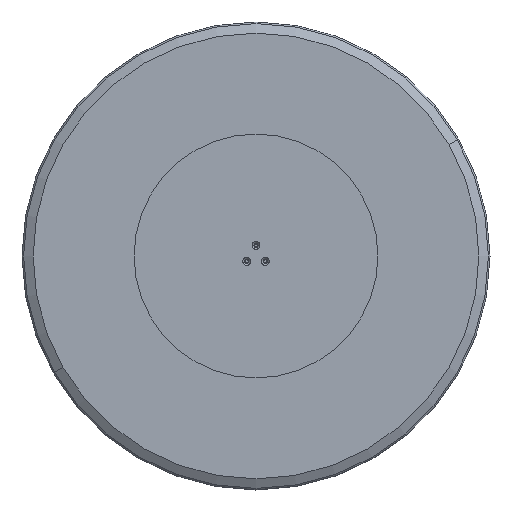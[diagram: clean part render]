
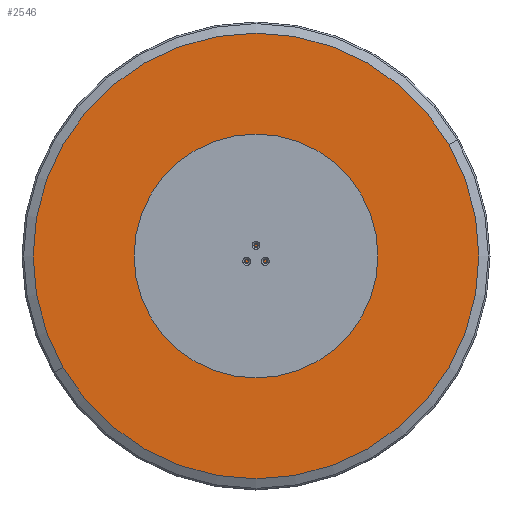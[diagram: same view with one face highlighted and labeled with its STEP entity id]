
A CAD part, front view. The second image highlights one B-rep face of the part: STEP entity #2546.
In plain terms, the highlighted planar face has unit normal (0, -1, 0).
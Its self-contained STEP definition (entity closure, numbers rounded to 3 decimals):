
#2 = CARTESIAN_POINT ( 'NONE',  ( 95., 0., -54.848 ) ) ;
#150 = PLANE ( 'NONE',  #3256 ) ;
#170 = ORIENTED_EDGE ( 'NONE', *, *, #2678, .T. ) ;
#176 = DIRECTION ( 'NONE',  ( 0., 1., 0. ) ) ;
#193 = DIRECTION ( 'NONE',  ( 0., 1., 0. ) ) ;
#209 = CARTESIAN_POINT ( 'NONE',  ( 0., 0., 0. ) ) ;
#230 = ORIENTED_EDGE ( 'NONE', *, *, #1282, .T. ) ;
#240 = EDGE_CURVE ( 'NONE', #2521, #2971, #834, .T. ) ;
#336 = ORIENTED_EDGE ( 'NONE', *, *, #2372, .T. ) ;
#361 = CIRCLE ( 'NONE', #2788, 3.4 ) ;
#402 = ORIENTED_EDGE ( 'NONE', *, *, #1863, .T. ) ;
#473 = FACE_BOUND ( 'NONE', #2837, .T. ) ;
#542 = CARTESIAN_POINT ( 'NONE',  ( 0., 0., 484.323 ) ) ;
#550 = DIRECTION ( 'NONE',  ( 0., 1., 0. ) ) ;
#552 = AXIS2_PLACEMENT_3D ( 'NONE', #2974, #550, #3547 ) ;
#599 = AXIS2_PLACEMENT_3D ( 'NONE', #209, #193, #1421 ) ;
#649 = CARTESIAN_POINT ( 'NONE',  ( 0., 0., -484.323 ) ) ;
#703 = AXIS2_PLACEMENT_3D ( 'NONE', #3090, #1289, #710 ) ;
#710 = DIRECTION ( 'NONE',  ( 0., 0., 1. ) ) ;
#724 = VERTEX_POINT ( 'NONE', #2861 ) ;
#757 = FACE_BOUND ( 'NONE', #2862, .T. ) ;
#792 = ORIENTED_EDGE ( 'NONE', *, *, #1921, .T. ) ;
#834 = CIRCLE ( 'NONE', #3069, 3.4 ) ;
#865 = EDGE_CURVE ( 'NONE', #1118, #3574, #3077, .T. ) ;
#1003 = CIRCLE ( 'NONE', #552, 3.4 ) ;
#1004 = AXIS2_PLACEMENT_3D ( 'NONE', #2957, #3880, #1770 ) ;
#1059 = FACE_OUTER_BOUND ( 'NONE', #1447, .T. ) ;
#1101 = CARTESIAN_POINT ( 'NONE',  ( 0., 0., 106.297 ) ) ;
#1118 = VERTEX_POINT ( 'NONE', #542 ) ;
#1146 = CARTESIAN_POINT ( 'NONE',  ( 95., 0., -51.448 ) ) ;
#1258 = CIRCLE ( 'NONE', #3940, 3.4 ) ;
#1282 = EDGE_CURVE ( 'NONE', #1872, #724, #2410, .T. ) ;
#1289 = DIRECTION ( 'NONE',  ( 0., 1., 0. ) ) ;
#1421 = DIRECTION ( 'NONE',  ( 0., 0., 1. ) ) ;
#1447 = EDGE_LOOP ( 'NONE', ( #1892, #2505 ) ) ;
#1638 = FACE_BOUND ( 'NONE', #2631, .T. ) ;
#1701 = DIRECTION ( 'NONE',  ( 0., 0., -1. ) ) ;
#1740 = DIRECTION ( 'NONE',  ( 0., 0., 1. ) ) ;
#1765 = DIRECTION ( 'NONE',  ( 0., 1., 0. ) ) ;
#1770 = DIRECTION ( 'NONE',  ( 0., 0., 1. ) ) ;
#1863 = EDGE_CURVE ( 'NONE', #2971, #2521, #1003, .T. ) ;
#1869 = CARTESIAN_POINT ( 'NONE',  ( 0., 0., 113.097 ) ) ;
#1872 = VERTEX_POINT ( 'NONE', #3266 ) ;
#1892 = ORIENTED_EDGE ( 'NONE', *, *, #865, .F. ) ;
#1921 = EDGE_CURVE ( 'NONE', #3220, #3011, #361, .T. ) ;
#1946 = CARTESIAN_POINT ( 'NONE',  ( 0., 0., 0. ) ) ;
#2042 = CARTESIAN_POINT ( 'NONE',  ( 95., 0., -54.848 ) ) ;
#2222 = CIRCLE ( 'NONE', #1004, 3.4 ) ;
#2372 = EDGE_CURVE ( 'NONE', #3011, #3220, #1258, .T. ) ;
#2410 = CIRCLE ( 'NONE', #703, 3.4 ) ;
#2467 = DIRECTION ( 'NONE',  ( 0., 0., 1. ) ) ;
#2505 = ORIENTED_EDGE ( 'NONE', *, *, #3919, .F. ) ;
#2521 = VERTEX_POINT ( 'NONE', #1101 ) ;
#2526 = CARTESIAN_POINT ( 'NONE',  ( 95., 0., -58.248 ) ) ;
#2546 = ADVANCED_FACE ( 'NONE', ( #1638, #757, #473, #1059 ), #150, .T. ) ;
#2591 = DIRECTION ( 'NONE',  ( 0., -1., 0. ) ) ;
#2631 = EDGE_LOOP ( 'NONE', ( #170, #230 ) ) ;
#2637 = DIRECTION ( 'NONE',  ( 0., 1., 0. ) ) ;
#2652 = CARTESIAN_POINT ( 'NONE',  ( 0., 0., 109.697 ) ) ;
#2678 = EDGE_CURVE ( 'NONE', #724, #1872, #2222, .T. ) ;
#2687 = ORIENTED_EDGE ( 'NONE', *, *, #240, .T. ) ;
#2761 = DIRECTION ( 'NONE',  ( 0., 0., 1. ) ) ;
#2788 = AXIS2_PLACEMENT_3D ( 'NONE', #2042, #176, #1740 ) ;
#2837 = EDGE_LOOP ( 'NONE', ( #402, #2687 ) ) ;
#2858 = CARTESIAN_POINT ( 'NONE',  ( 0., 0., 0. ) ) ;
#2861 = CARTESIAN_POINT ( 'NONE',  ( -95., 0., -51.448 ) ) ;
#2862 = EDGE_LOOP ( 'NONE', ( #792, #336 ) ) ;
#2957 = CARTESIAN_POINT ( 'NONE',  ( -95., 0., -54.848 ) ) ;
#2971 = VERTEX_POINT ( 'NONE', #1869 ) ;
#2974 = CARTESIAN_POINT ( 'NONE',  ( 0., 0., 109.697 ) ) ;
#3011 = VERTEX_POINT ( 'NONE', #2526 ) ;
#3069 = AXIS2_PLACEMENT_3D ( 'NONE', #2652, #2637, #3866 ) ;
#3077 = CIRCLE ( 'NONE', #3649, 484.323 ) ;
#3090 = CARTESIAN_POINT ( 'NONE',  ( -95., 0., -54.848 ) ) ;
#3166 = DIRECTION ( 'NONE',  ( 0., 1., 0. ) ) ;
#3220 = VERTEX_POINT ( 'NONE', #1146 ) ;
#3256 = AXIS2_PLACEMENT_3D ( 'NONE', #2858, #2591, #1701 ) ;
#3266 = CARTESIAN_POINT ( 'NONE',  ( -95., 0., -58.248 ) ) ;
#3547 = DIRECTION ( 'NONE',  ( 0., 0., 1. ) ) ;
#3574 = VERTEX_POINT ( 'NONE', #649 ) ;
#3649 = AXIS2_PLACEMENT_3D ( 'NONE', #1946, #3166, #2467 ) ;
#3866 = DIRECTION ( 'NONE',  ( 0., 0., 1. ) ) ;
#3880 = DIRECTION ( 'NONE',  ( 0., 1., 0. ) ) ;
#3919 = EDGE_CURVE ( 'NONE', #3574, #1118, #3923, .T. ) ;
#3923 = CIRCLE ( 'NONE', #599, 484.323 ) ;
#3940 = AXIS2_PLACEMENT_3D ( 'NONE', #2, #1765, #2761 ) ;
